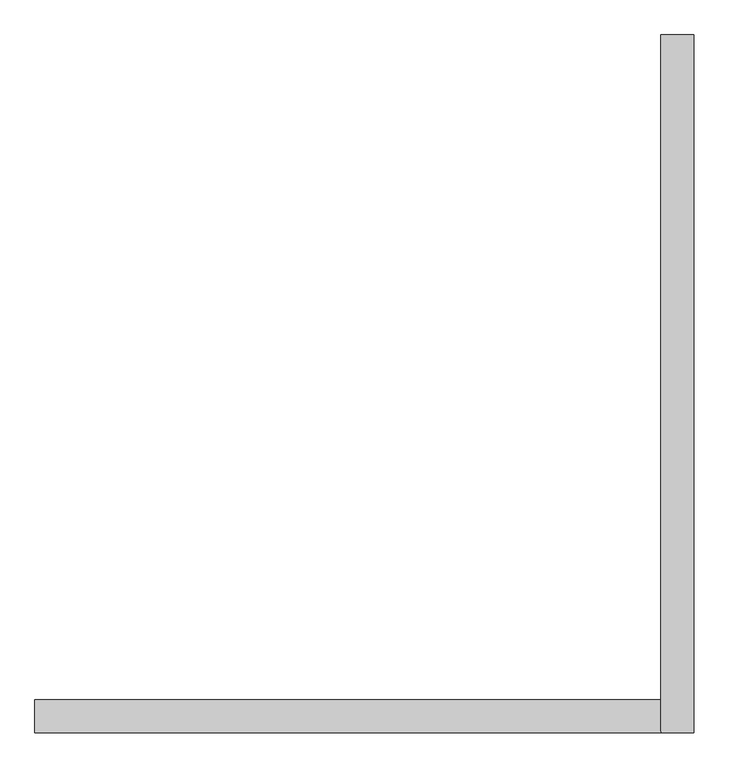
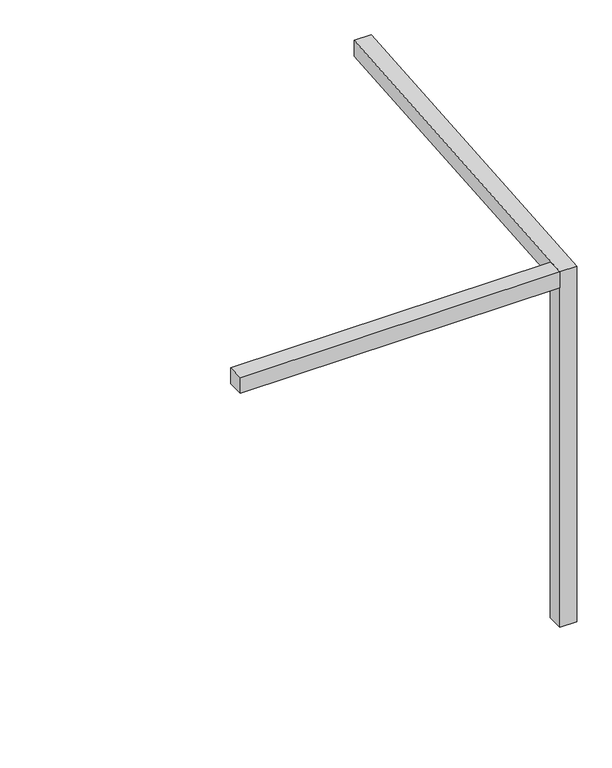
"""IFC4 building model written with IfcOpenShell, lengths in millimetres: column geometry, ARCO_MET-02 : ARCO_MET-02."""

from ifc_helpers import new_model, si_unit, frame, origin, place, context, project, spatial, polyline, outline, extrude, source, transform, mapped, element, save


def column_a2f402ee(model_context):
    return source(origin(), model_context, "Body", "SweptSolid", [
        extrude(outline(polyline([(17605.5015264, -3268.0609004), (17605.5015264, -3388.0609004), (15325.5015264, -3388.0609004), (15325.5015264, -3268.0609004), (17605.5015264, -3268.0609004)])), frame((0.0, 0.0, 2542.2219588), z_axis=(0.0, 0.0, 1.0), x_axis=(1.0, 0.0, 0.0)), (0.0, 0.0, 1.0), 120.0),
        extrude(outline(polyline([(-848.0609004, 2866.7067683), (-848.0609004, 2746.318525), (-3268.0609004, 2551.4944152), (-3268.0609004, -20.0), (-3388.0609004, -20.0), (-3388.0609004, 2662.2219588), (-848.0609004, 2866.7067683)])), frame((17605.5015264, 0.0, 0.0), z_axis=(1.0, 0.0, 0.0), x_axis=(0.0, 1.0, 0.0)), (0.0, 0.0, 1.0), 120.0),
    ])


if __name__ == "__main__":
    model = new_model("IFC4")
    model_context = context("Model", 3, world=origin())
    ifc_project = project(units=[si_unit("LENGTHUNIT", "METRE", prefix="MILLI")], contexts=[model_context])
    site = spatial("IfcSite", under=ifc_project)
    building = spatial("IfcBuilding", under=site)
    placement = place(None, origin())
    column_shape = column_a2f402ee(model_context)
    element("IfcColumn", 1, ObjectType="ARCO_MET-02 : ARCO_MET-02", at=placement, inside=building, context=model_context, shape_type="MappedRepresentation", body=[
        mapped(column_shape, transform((0.0, 0.0, 0.0), x_axis=(1.0, 0.0, 0.0), y_axis=(0.0, 1.0, 0.0), z_axis=(0.0, 0.0, 1.0))),
    ])
    save(model, "model.ifc")
